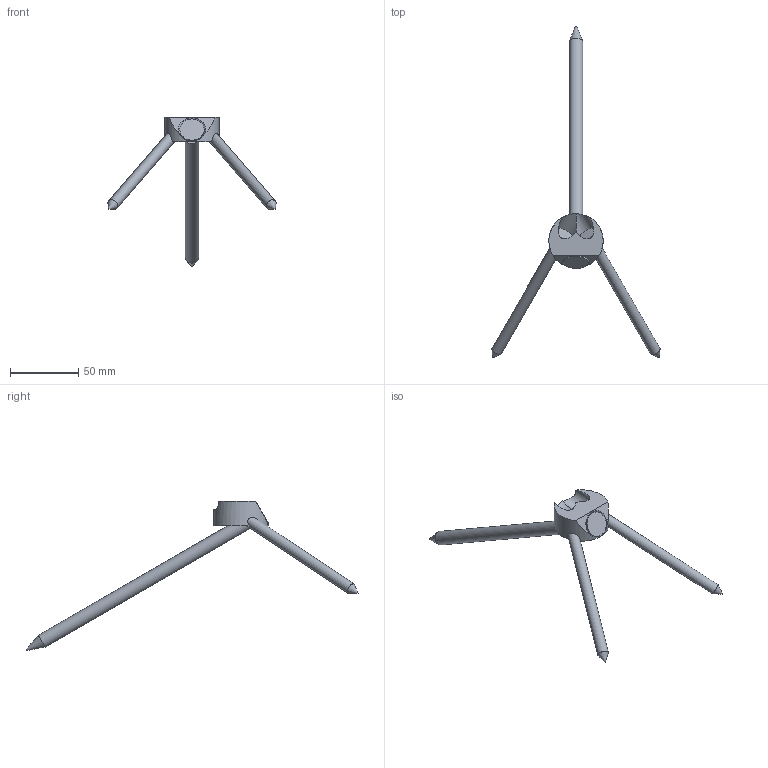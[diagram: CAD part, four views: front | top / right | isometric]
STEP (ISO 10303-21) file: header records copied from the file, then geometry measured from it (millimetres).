
FILE_DESCRIPTION(/* description */ ('Unknown'),/* implementation_level */ '2;1');
FILE_NAME(/* name */ 'T-JOINT D40_W30_2xSK 8x120_1xSK 10x 200',/* time_stamp */ '2022-02-04T10:00:38+01:00',/* author */ ('Unknown'),/* organization */ ('Unknown'),/* preprocessor_version */ 'ST-DEVELOPER v16.7',/* originating_system */ 'Solid Edge',/* authorisation */ 'Unknown');
FILE_SCHEMA (('AUTOMOTIVE_DESIGN {1 0 10303 214 3 1 1}'));
Length unit declared in the file: millimetre
Products named in the file (4): T_JOINT_D40_W30_2x SK8x120_1xSK10x200; T-Joint_D40_W30; SK_Schraube_8x120; SK Schraube 10x200_ohne_Gewinde_22042020
Assembly tree (4 placements, depth 2):
  T_JOINT_D40_W30_2x SK8x120_1xSK10x200
    T-Joint_D40_W30
    SK_Schraube_8x120  x2
    SK Schraube 10x200_ohne_Gewinde_22042020
Bounding box: 123.24 x 243.33 x 109.36 mm (x, y, z)
Volume: 39150.5 mm3; surface area: 18986.1 mm2
Topology: 4 solids, 4 shells, 33 faces, 76 edges, 46 vertices
Faces by surface type: cylinder 14, plane 9, cone 9, torus 1
Full cylindrical faces by diameter (mm): 6.3 x1, 8 x2, 8.5 x2, 10 x2, 12.5 x1, 15 x2, 15.5 x2, 18 x1, 39.8 x1
Entity records: 803 total; most frequent: CARTESIAN_POINT 154, DIRECTION 131, ORIENTED_EDGE 76, AXIS2_PLACEMENT_3D 65, FACE_BOUND 51, EDGE_LOOP 50, EDGE_CURVE 38, VERTEX_POINT 33
